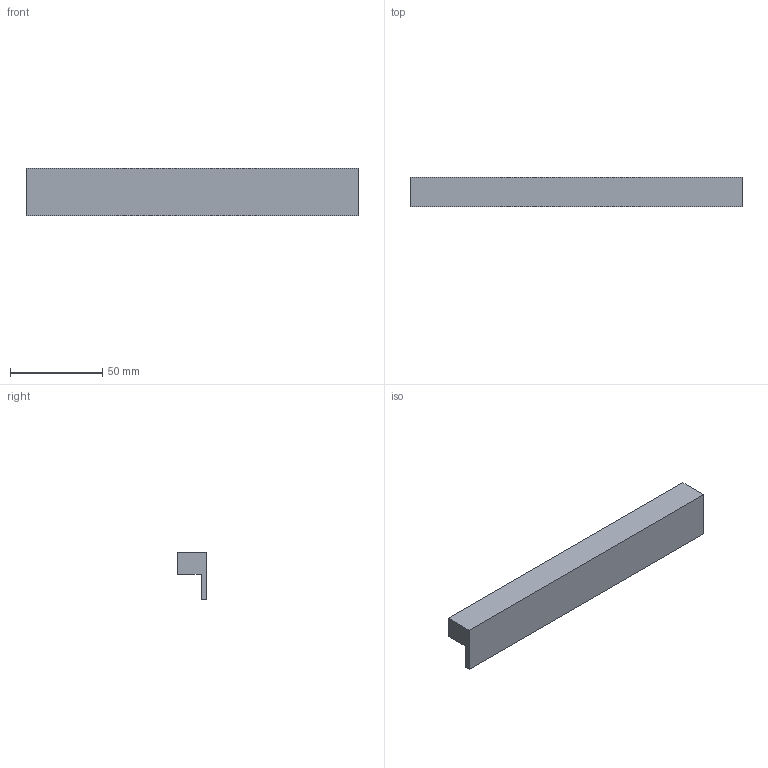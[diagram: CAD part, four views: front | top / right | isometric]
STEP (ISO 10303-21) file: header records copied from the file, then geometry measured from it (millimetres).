
FILE_DESCRIPTION( ( 'STEP AP214' ), '1' );
FILE_NAME( 'D:/Shahbaz D&D/Task/Check and correct handles with 3 drill sockets/Trani/9209004.stp', '2023-02-20T11:28:22', ( '' ), ( '' ), ' ', 'PARTsolutions', ' ' );
FILE_SCHEMA( ( 'AUTOMOTIVE_DESIGN { 1 0 10303 214 1 1 1 1 }' ) );
Length unit declared in the file: millimetre
Products named in the file (1): _9209004
Bounding box: 180 x 16 x 26 mm (x, y, z)
Volume: 41805.8 mm3; surface area: 15839.3 mm2
Topology: 1 solids, 1 shells, 12 faces, 24 edges, 16 vertices
Faces by surface type: plane 10, cylinder 2
Full cylindrical faces by diameter (mm): 5 x2
Entity records: 414 total; most frequent: DIRECTION 52, CARTESIAN_POINT 51, ORIENTED_EDGE 44, EDGE_CURVE 22, LINE 18, VECTOR 18, AXIS2_PLACEMENT_3D 17, EDGE_LOOP 16
